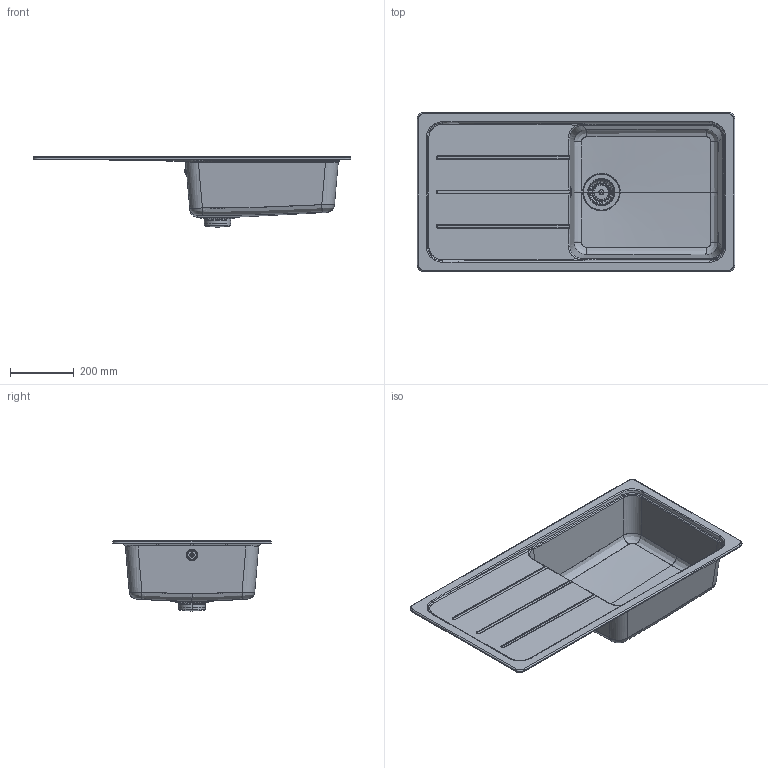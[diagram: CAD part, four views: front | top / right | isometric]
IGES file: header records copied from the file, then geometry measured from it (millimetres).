
Global section: file name: /Volumes/__KUNDEN/____01_SCHOCK/____projekte_schock/__RENDERINGS/__SPUELEN/02_3D Daten/02_PERSPEKTIVEN/Rhino/_SPU; native system: Rhinoceros ( Aug 27 2014 ); preprocessor: Trout Lake IGES 012 Aug 27 2014; date: 141103.153200; units: millimetre
Bounding box: 1000 x 500 x 221.43 mm (x, y, z)
Surface area: 818162.9 mm2 (no closed solid volume)
Topology: 0 solids, 0 shells, 389 faces, 41798 edges, 41788 vertices
Faces by surface type: bspline 389
